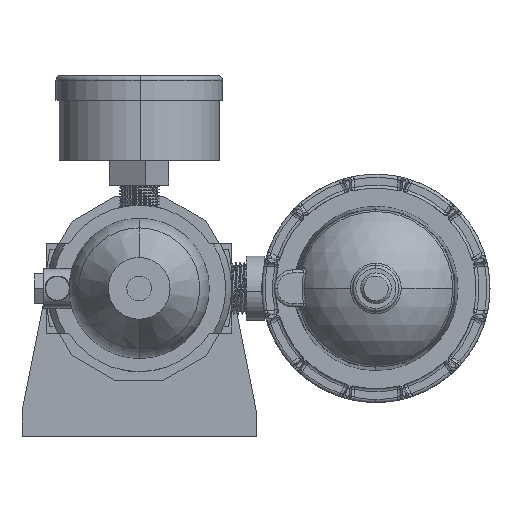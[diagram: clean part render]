
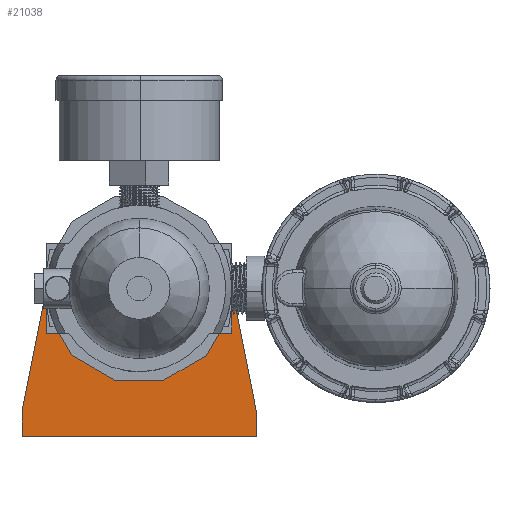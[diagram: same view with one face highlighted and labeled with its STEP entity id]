
A CAD part, front view. The second image highlights one B-rep face of the part: STEP entity #21038.
In plain terms, the highlighted planar face has unit normal (0, -1, 0).
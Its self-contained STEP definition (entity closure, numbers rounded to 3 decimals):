
#55 = CARTESIAN_POINT ( 'NONE',  ( 38., 0., -48. ) ) ;
#822 = ORIENTED_EDGE ( 'NONE', *, *, #40904, .F. ) ;
#3568 = EDGE_CURVE ( 'NONE', #4927, #34203, #24556, .T. ) ;
#4927 = VERTEX_POINT ( 'NONE', #6532 ) ;
#5084 = DIRECTION ( 'NONE',  ( 0., 1., 0. ) ) ;
#5168 = VERTEX_POINT ( 'NONE', #43742 ) ;
#5272 = DIRECTION ( 'NONE',  ( 0., 0., 1. ) ) ;
#6102 = CARTESIAN_POINT ( 'NONE',  ( 0., 0., 0. ) ) ;
#6325 = DIRECTION ( 'NONE',  ( 0., 1., 0. ) ) ;
#6532 = CARTESIAN_POINT ( 'NONE',  ( -38., 0., -48. ) ) ;
#6790 = VECTOR ( 'NONE', #49853, 1000. ) ;
#6954 = FACE_BOUND ( 'NONE', #38222, .T. ) ;
#8015 = CARTESIAN_POINT ( 'NONE',  ( -38., 0., -48. ) ) ;
#8436 = EDGE_CURVE ( 'NONE', #34203, #50968, #20095, .T. ) ;
#9025 = DIRECTION ( 'NONE',  ( 0., 1., 0. ) ) ;
#10057 = VECTOR ( 'NONE', #48338, 1000. ) ;
#10488 = DIRECTION ( 'NONE',  ( 0., 0., 1. ) ) ;
#10952 = CIRCLE ( 'NONE', #25660, 24. ) ;
#12841 = CARTESIAN_POINT ( 'NONE',  ( 38., 0., -40. ) ) ;
#14110 = CIRCLE ( 'NONE', #42190, 29.5 ) ;
#15154 = CARTESIAN_POINT ( 'NONE',  ( 0., 0., -24. ) ) ;
#16351 = VECTOR ( 'NONE', #51495, 1000. ) ;
#19314 = ORIENTED_EDGE ( 'NONE', *, *, #33992, .F. ) ;
#19471 = DIRECTION ( 'NONE',  ( 0., 0., 1. ) ) ;
#20095 = LINE ( 'NONE', #52429, #53373 ) ;
#20266 = LINE ( 'NONE', #35835, #10057 ) ;
#20301 = ORIENTED_EDGE ( 'NONE', *, *, #46195, .T. ) ;
#21038 = ADVANCED_FACE ( 'NONE', ( #6954, #23340 ), #21975, .F. ) ;
#21073 = VERTEX_POINT ( 'NONE', #12841 ) ;
#21906 = CIRCLE ( 'NONE', #44747, 24. ) ;
#21975 = PLANE ( 'NONE',  #33748 ) ;
#23114 = LINE ( 'NONE', #45684, #6790 ) ;
#23340 = FACE_OUTER_BOUND ( 'NONE', #41086, .T. ) ;
#24556 = LINE ( 'NONE', #8015, #16351 ) ;
#25660 = AXIS2_PLACEMENT_3D ( 'NONE', #6102, #53595, #10488 ) ;
#26007 = CARTESIAN_POINT ( 'NONE',  ( -38., 0., -40. ) ) ;
#26311 = EDGE_CURVE ( 'NONE', #37698, #5168, #10952, .T. ) ;
#27542 = CARTESIAN_POINT ( 'NONE',  ( -38., 0., -48. ) ) ;
#28886 = ORIENTED_EDGE ( 'NONE', *, *, #52560, .F. ) ;
#29422 = VERTEX_POINT ( 'NONE', #55 ) ;
#29895 = ORIENTED_EDGE ( 'NONE', *, *, #3568, .F. ) ;
#30122 = VERTEX_POINT ( 'NONE', #44684 ) ;
#31056 = CARTESIAN_POINT ( 'NONE',  ( -28.937, 0., 5.734 ) ) ;
#33748 = AXIS2_PLACEMENT_3D ( 'NONE', #34886, #9025, #48136 ) ;
#33992 = EDGE_CURVE ( 'NONE', #29422, #4927, #39659, .T. ) ;
#34203 = VERTEX_POINT ( 'NONE', #26007 ) ;
#34886 = CARTESIAN_POINT ( 'NONE',  ( 0., 0., 0. ) ) ;
#35835 = CARTESIAN_POINT ( 'NONE',  ( 38., 0., -40. ) ) ;
#36374 = CARTESIAN_POINT ( 'NONE',  ( 0., 0., 0. ) ) ;
#37698 = VERTEX_POINT ( 'NONE', #15154 ) ;
#38222 = EDGE_LOOP ( 'NONE', ( #20301, #47719 ) ) ;
#39659 = LINE ( 'NONE', #27542, #51191 ) ;
#39663 = CARTESIAN_POINT ( 'NONE',  ( 0., 0., 0. ) ) ;
#40904 = EDGE_CURVE ( 'NONE', #30122, #21073, #20266, .T. ) ;
#41086 = EDGE_LOOP ( 'NONE', ( #46392, #29895, #19314, #28886, #822, #46448 ) ) ;
#42190 = AXIS2_PLACEMENT_3D ( 'NONE', #36374, #6325, #19471 ) ;
#43310 = DIRECTION ( 'NONE',  ( 0.194, 0., 0.981 ) ) ;
#43742 = CARTESIAN_POINT ( 'NONE',  ( 0., 0., 24. ) ) ;
#44583 = DIRECTION ( 'NONE',  ( -1., 0., 0. ) ) ;
#44684 = CARTESIAN_POINT ( 'NONE',  ( 28.937, 0., 5.734 ) ) ;
#44747 = AXIS2_PLACEMENT_3D ( 'NONE', #39663, #5084, #5272 ) ;
#45684 = CARTESIAN_POINT ( 'NONE',  ( 38., 0., -48. ) ) ;
#46195 = EDGE_CURVE ( 'NONE', #5168, #37698, #21906, .T. ) ;
#46392 = ORIENTED_EDGE ( 'NONE', *, *, #8436, .F. ) ;
#46448 = ORIENTED_EDGE ( 'NONE', *, *, #55717, .F. ) ;
#47719 = ORIENTED_EDGE ( 'NONE', *, *, #26311, .T. ) ;
#48136 = DIRECTION ( 'NONE',  ( 0., 0., 1. ) ) ;
#48338 = DIRECTION ( 'NONE',  ( 0.194, 0., -0.981 ) ) ;
#49853 = DIRECTION ( 'NONE',  ( 0., 0., -1. ) ) ;
#50968 = VERTEX_POINT ( 'NONE', #31056 ) ;
#51191 = VECTOR ( 'NONE', #44583, 1000. ) ;
#51495 = DIRECTION ( 'NONE',  ( 0., 0., 1. ) ) ;
#52429 = CARTESIAN_POINT ( 'NONE',  ( -38., 0., -40. ) ) ;
#52560 = EDGE_CURVE ( 'NONE', #21073, #29422, #23114, .T. ) ;
#53373 = VECTOR ( 'NONE', #43310, 1000. ) ;
#53595 = DIRECTION ( 'NONE',  ( 0., 1., 0. ) ) ;
#55717 = EDGE_CURVE ( 'NONE', #50968, #30122, #14110, .T. ) ;
